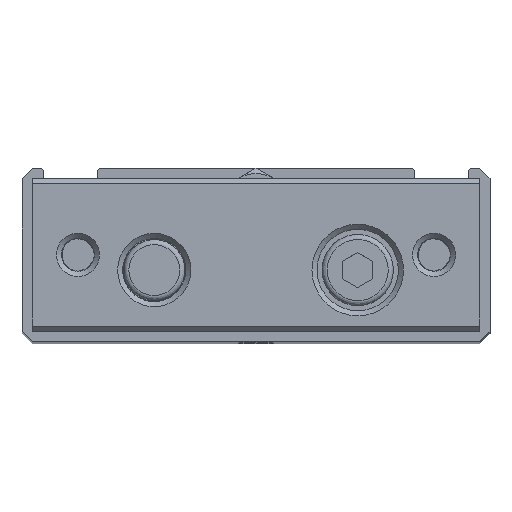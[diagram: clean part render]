
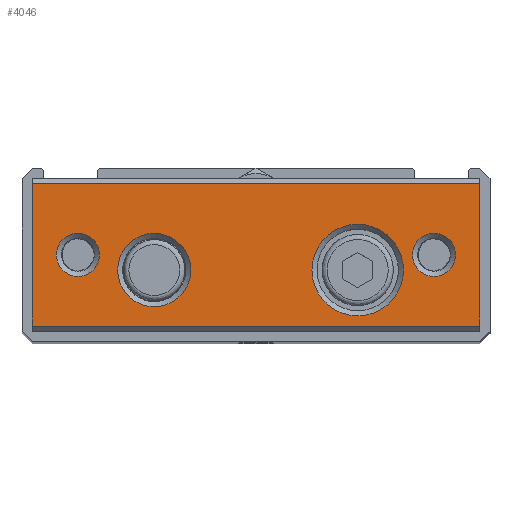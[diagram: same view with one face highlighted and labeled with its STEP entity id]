
A CAD part, top view. The second image highlights one B-rep face of the part: STEP entity #4046.
In plain terms, the highlighted planar face has unit normal (0, 0, 1).
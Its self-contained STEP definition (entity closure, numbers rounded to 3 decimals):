
#3142=CARTESIAN_POINT('',(22.0,7.0,149.));
#3143=VERTEX_POINT('',#3142);
#3151=CARTESIAN_POINT('',(-22.0,7.0,149.));
#3152=VERTEX_POINT('',#3151);
#3159=CARTESIAN_POINT('',(-22.0,7.0,149.));
#3160=DIRECTION('',(1.0,0.0,0.0));
#3161=VECTOR('',#3160,44.0);
#3162=LINE('',#3159,#3161);
#3163=EDGE_CURVE('',#3152,#3143,#3162,.T.);
#3239=CARTESIAN_POINT('',(-22.0,-7.0,149.));
#3240=VERTEX_POINT('',#3239);
#3247=CARTESIAN_POINT('',(-22.0,7.0,149.));
#3248=DIRECTION('',(0.0,-1.0,0.0));
#3249=VECTOR('',#3248,14.0);
#3250=LINE('',#3247,#3249);
#3251=EDGE_CURVE('',#3152,#3240,#3250,.T.);
#3403=CARTESIAN_POINT('',(22.0,-7.0,149.));
#3404=VERTEX_POINT('',#3403);
#3405=CARTESIAN_POINT('',(22.0,-7.0,149.));
#3406=DIRECTION('',(0.0,1.0,0.0));
#3407=VECTOR('',#3406,14.0);
#3408=LINE('',#3405,#3407);
#3409=EDGE_CURVE('',#3404,#3143,#3408,.T.);
#3982=CARTESIAN_POINT('',(14.5,-1.5,149.));
#3983=VERTEX_POINT('',#3982);
#3984=CARTESIAN_POINT('',(10.0,-1.5,149.));
#3985=DIRECTION('',(0.0,0.0,1.0));
#3986=DIRECTION('',(-1.0,0.0,0.0));
#3987=AXIS2_PLACEMENT_3D('',#3984,#3985,#3986);
#3988=CIRCLE('',#3987,4.5);
#3989=EDGE_CURVE('',#3983,#3983,#3988,.T.);
#3994=CARTESIAN_POINT('',(0.0,-7.5,149.));
#3995=DIRECTION('',(0.0,0.0,1.0));
#3996=DIRECTION('',(1.0,0.0,0.0));
#3997=AXIS2_PLACEMENT_3D('',#3994,#3995,#3996);
#3998=PLANE('',#3997);
#3999=ORIENTED_EDGE('',*,*,#3163,.F.);
#4000=ORIENTED_EDGE('',*,*,#3251,.T.);
#4001=CARTESIAN_POINT('',(22.0,-7.0,149.));
#4002=DIRECTION('',(-1.0,0.0,0.0));
#4003=VECTOR('',#4002,44.0);
#4004=LINE('',#4001,#4003);
#4005=EDGE_CURVE('',#3404,#3240,#4004,.T.);
#4006=ORIENTED_EDGE('',*,*,#4005,.F.);
#4007=ORIENTED_EDGE('',*,*,#3409,.T.);
#4008=EDGE_LOOP('',(#3999,#4000,#4006,#4007));
#4009=FACE_OUTER_BOUND('',#4008,.T.);
#4010=CARTESIAN_POINT('',(-6.4,-1.5,149.));
#4011=VERTEX_POINT('',#4010);
#4012=CARTESIAN_POINT('',(-10.0,-1.5,149.));
#4013=DIRECTION('',(0.0,0.0,1.0));
#4014=DIRECTION('',(-1.0,0.0,0.0));
#4015=AXIS2_PLACEMENT_3D('',#4012,#4013,#4014);
#4016=CIRCLE('',#4015,3.6);
#4017=EDGE_CURVE('',#4011,#4011,#4016,.T.);
#4018=ORIENTED_EDGE('',*,*,#4017,.F.);
#4019=EDGE_LOOP('',(#4018));
#4020=FACE_BOUND('',#4019,.T.);
#4021=CARTESIAN_POINT('',(19.621,0.,149.));
#4022=VERTEX_POINT('',#4021);
#4023=CARTESIAN_POINT('',(17.5,0.0,149.));
#4024=DIRECTION('',(0.0,0.0,1.0));
#4025=DIRECTION('',(-1.0,0.0,0.0));
#4026=AXIS2_PLACEMENT_3D('',#4023,#4024,#4025);
#4027=CIRCLE('',#4026,2.121);
#4028=EDGE_CURVE('',#4022,#4022,#4027,.T.);
#4029=ORIENTED_EDGE('',*,*,#4028,.F.);
#4030=EDGE_LOOP('',(#4029));
#4031=FACE_BOUND('',#4030,.T.);
#4032=CARTESIAN_POINT('',(-15.379,0.,149.));
#4033=VERTEX_POINT('',#4032);
#4034=CARTESIAN_POINT('',(-17.5,0.0,149.));
#4035=DIRECTION('',(0.0,0.0,1.0));
#4036=DIRECTION('',(-1.0,0.0,0.0));
#4037=AXIS2_PLACEMENT_3D('',#4034,#4035,#4036);
#4038=CIRCLE('',#4037,2.121);
#4039=EDGE_CURVE('',#4033,#4033,#4038,.T.);
#4040=ORIENTED_EDGE('',*,*,#4039,.F.);
#4041=EDGE_LOOP('',(#4040));
#4042=FACE_BOUND('',#4041,.T.);
#4043=ORIENTED_EDGE('',*,*,#3989,.F.);
#4044=EDGE_LOOP('',(#4043));
#4045=FACE_BOUND('',#4044,.T.);
#4046=ADVANCED_FACE('',(#4009,#4020,#4031,#4042,#4045),#3998,.T.);
